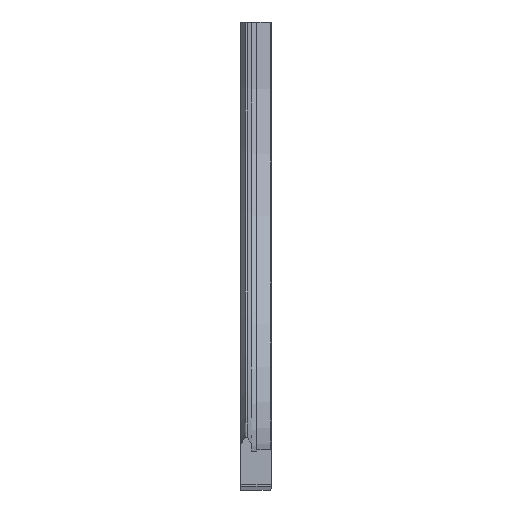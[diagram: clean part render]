
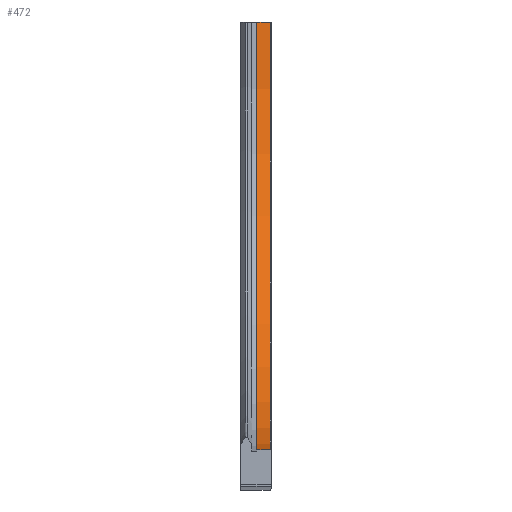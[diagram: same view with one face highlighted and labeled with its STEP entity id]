
A CAD part, left-side view. The second image highlights one B-rep face of the part: STEP entity #472.
In plain terms, the highlighted cylindrical face has radius 171 mm (diameter 342 mm), a partial arc.
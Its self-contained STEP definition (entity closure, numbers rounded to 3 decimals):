
#472 = ADVANCED_FACE( '', ( #1468 ), #1469, .F. );
#1468 = FACE_OUTER_BOUND( '', #2646, .T. );
#1469 = CYLINDRICAL_SURFACE( '', #2647, 171. );
#2646 = EDGE_LOOP( '', ( #6897, #6898, #6899, #6900 ) );
#2647 = AXIS2_PLACEMENT_3D( '', #6901, #6902, #6903 );
#6897 = ORIENTED_EDGE( '', *, *, #9799, .T. );
#6898 = ORIENTED_EDGE( '', *, *, #9165, .T. );
#6899 = ORIENTED_EDGE( '', *, *, #9800, .F. );
#6900 = ORIENTED_EDGE( '', *, *, #8195, .T. );
#6901 = CARTESIAN_POINT( '', ( 0., 0., 0. ) );
#6902 = DIRECTION( '', ( 0., 1., 0. ) );
#6903 = DIRECTION( '', ( 0., 0., -1. ) );
#8195 = EDGE_CURVE( '', #9923, #9921, #9924, .T. );
#9165 = EDGE_CURVE( '', #11848, #11846, #11849, .F. );
#9799 = EDGE_CURVE( '', #9921, #11848, #12659, .T. );
#9800 = EDGE_CURVE( '', #9923, #11846, #12660, .T. );
#9921 = VERTEX_POINT( '', #12799 );
#9923 = VERTEX_POINT( '', #12804 );
#9924 = LINE( '', #12805, #12806 );
#11846 = VERTEX_POINT( '', #15522 );
#11848 = VERTEX_POINT( '', #15525 );
#11849 = LINE( '', #15526, #15527 );
#12659 = CIRCLE( '', #17328, 171. );
#12660 = CIRCLE( '', #17329, 171. );
#12799 = CARTESIAN_POINT( '', ( 1., 0.5, -170.997 ) );
#12804 = CARTESIAN_POINT( '', ( 1., 5.75, -170.997 ) );
#12805 = CARTESIAN_POINT( '', ( 1., 0., -170.997 ) );
#12806 = VECTOR( '', #17435, 1000. );
#15522 = CARTESIAN_POINT( '', ( 170.997, 5.75, -1. ) );
#15525 = CARTESIAN_POINT( '', ( 170.997, 0.5, -1. ) );
#15526 = CARTESIAN_POINT( '', ( 170.997, 0., -1. ) );
#15527 = VECTOR( '', #18810, 1000. );
#17328 = AXIS2_PLACEMENT_3D( '', #19265, #19266, #19267 );
#17329 = AXIS2_PLACEMENT_3D( '', #19268, #19269, #19270 );
#17435 = DIRECTION( '', ( 0., -1., 0. ) );
#18810 = DIRECTION( '', ( 0., -1., 0. ) );
#19265 = CARTESIAN_POINT( '', ( 0., 0.5, 0. ) );
#19266 = DIRECTION( '', ( 0., -1., 0. ) );
#19267 = DIRECTION( '', ( 0., 0., -1. ) );
#19268 = CARTESIAN_POINT( '', ( 0., 5.75, 0. ) );
#19269 = DIRECTION( '', ( 0., -1., 0. ) );
#19270 = DIRECTION( '', ( 0., 0., -1. ) );
